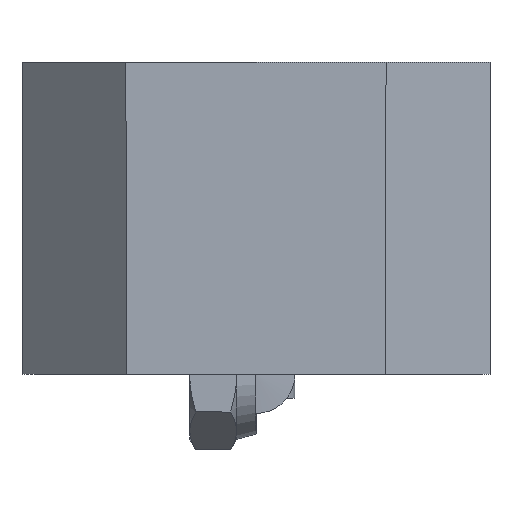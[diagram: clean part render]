
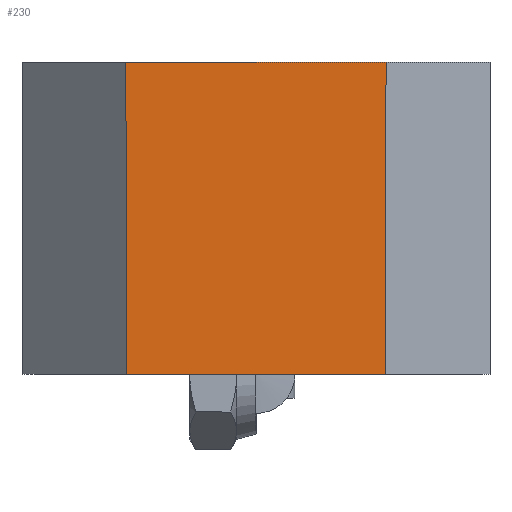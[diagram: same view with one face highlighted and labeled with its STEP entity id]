
A CAD part, left-side view. The second image highlights one B-rep face of the part: STEP entity #230.
In plain terms, the highlighted planar face has unit normal (-1, 0, 0).
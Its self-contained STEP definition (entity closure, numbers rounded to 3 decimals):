
#230 = ADVANCED_FACE( '', ( #301 ), #302, .T. );
#301 = FACE_OUTER_BOUND( '', #442, .T. );
#302 = PLANE( '', #443 );
#442 = EDGE_LOOP( '', ( #627, #628, #629, #630 ) );
#443 = AXIS2_PLACEMENT_3D( '', #631, #632, #633 );
#627 = ORIENTED_EDGE( '', *, *, #1011, .T. );
#628 = ORIENTED_EDGE( '', *, *, #1008, .T. );
#629 = ORIENTED_EDGE( '', *, *, #985, .F. );
#630 = ORIENTED_EDGE( '', *, *, #997, .T. );
#631 = CARTESIAN_POINT( '', ( -18., -18., 0. ) );
#632 = DIRECTION( '', ( -1., 0., 0. ) );
#633 = DIRECTION( '', ( 0., 0., 1. ) );
#985 = EDGE_CURVE( '', #1105, #1106, #1107, .T. );
#997 = EDGE_CURVE( '', #1105, #1127, #1129, .T. );
#1008 = EDGE_CURVE( '', #1147, #1106, #1148, .T. );
#1011 = EDGE_CURVE( '', #1127, #1147, #1152, .T. );
#1105 = VERTEX_POINT( '', #1303 );
#1106 = VERTEX_POINT( '', #1304 );
#1107 = LINE( '', #1305, #1306 );
#1127 = VERTEX_POINT( '', #1334 );
#1129 = LINE( '', #1337, #1338 );
#1147 = VERTEX_POINT( '', #1366 );
#1148 = LINE( '', #1367, #1368 );
#1152 = LINE( '', #1373, #1374 );
#1303 = CARTESIAN_POINT( '', ( -18., -10., 0. ) );
#1304 = CARTESIAN_POINT( '', ( -18., 10., 0. ) );
#1305 = CARTESIAN_POINT( '', ( -18., -18., 0. ) );
#1306 = VECTOR( '', #1681, 1000. );
#1334 = CARTESIAN_POINT( '', ( -18., -10., 24. ) );
#1337 = CARTESIAN_POINT( '', ( -18., -10., 24. ) );
#1338 = VECTOR( '', #1697, 1000. );
#1366 = CARTESIAN_POINT( '', ( -18., 10., 24. ) );
#1367 = CARTESIAN_POINT( '', ( -18., 10., 0. ) );
#1368 = VECTOR( '', #1708, 1000. );
#1373 = CARTESIAN_POINT( '', ( -18., -18., 24. ) );
#1374 = VECTOR( '', #1713, 1000. );
#1681 = DIRECTION( '', ( 0., 1., 0. ) );
#1697 = DIRECTION( '', ( 0., 0., 1. ) );
#1708 = DIRECTION( '', ( 0., 0., -1. ) );
#1713 = DIRECTION( '', ( 0., 1., 0. ) );
